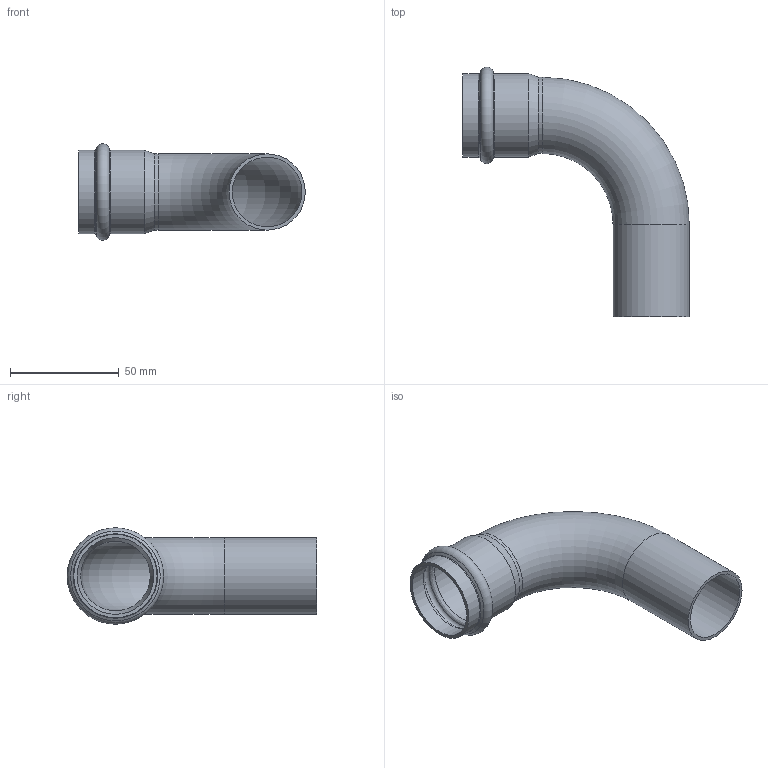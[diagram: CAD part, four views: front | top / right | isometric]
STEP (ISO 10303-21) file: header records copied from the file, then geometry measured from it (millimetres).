
FILE_DESCRIPTION((''),'2;1');
FILE_NAME('G:\Technics\CAD\Bauteile\035\69001A35(1).stp','2008-02-28T11:32:59',('herberg'),(''),'Autodesk Inventor 2008','Autodesk Inventor 2008','');
FILE_SCHEMA(('AUTOMOTIVE_DESIGN { 1 0 10303 214 1 1 1 1 }'));
Length unit declared in the file: millimetre
Products named in the file (1): 69001A35(1)
Bounding box: 104 x 114.65 x 44.29 mm (x, y, z)
Volume: 26071.3 mm3; surface area: 35092.2 mm2
Topology: 1 solids, 1 shells, 22 faces, 48 edges, 28 vertices
Faces by surface type: cylinder 8, torus 4, cone 4, bspline 4, plane 2
Full cylindrical faces by diameter (mm): 32 x2, 35 x2, 35.25 x2, 38.25 x2
Entity records: 634 total; most frequent: CARTESIAN_POINT 243, DIRECTION 82, ORIENTED_EDGE 44, EDGE_LOOP 44, AXIS2_PLACEMENT_3D 41, VERTEX_POINT 22, CIRCLE 22, EDGE_CURVE 22
